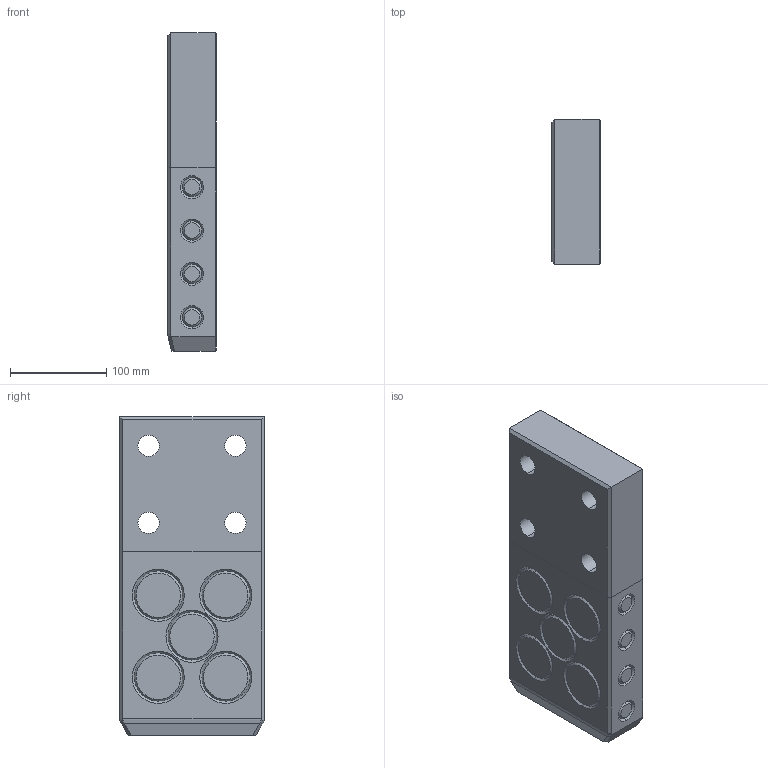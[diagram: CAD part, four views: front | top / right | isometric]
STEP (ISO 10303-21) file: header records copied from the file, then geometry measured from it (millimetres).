
FILE_DESCRIPTION((''),'2;1');
FILE_NAME('','2010-08-30T18:27:40+09:00',('misumi'),(''),'M/STEP i/f 1R2-14','CADmeister v5.1','');
FILE_SCHEMA(('AUTOMOTIVE_DESIGN'));
Length unit declared in the file: millimetre
Products named in the file (1): OG150-330
Bounding box: 50 x 150 x 330 mm (x, y, z)
Volume: 2375632.1 mm3; surface area: 157613.7 mm2
Topology: 1 solids, 1 shells, 106 faces, 228 edges, 138 vertices
Faces by surface type: cone 52, plane 39, cylinder 11, bspline 4
Entity records: 3924 total; most frequent: CARTESIAN_POINT 1529, DIRECTION 486, ORIENTED_EDGE 456, EDGE_CURVE 228, AXIS2_PLACEMENT_3D 185, VERTEX_POINT 138, EDGE_LOOP 128, LINE 116
